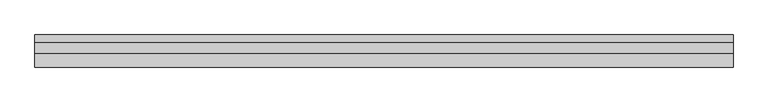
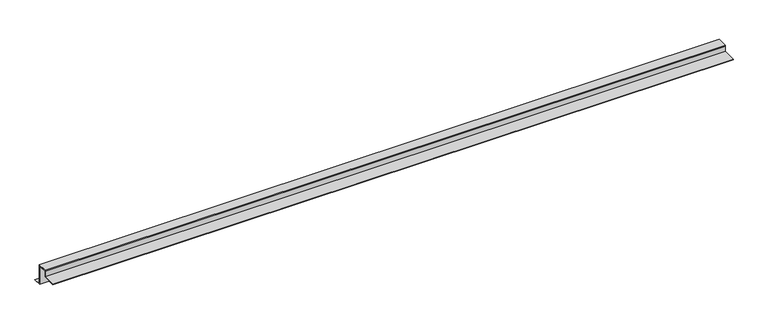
"""IFC4 building model written with IfcOpenShell, lengths in millimetres: proxy geometry, АК8_1 бок Обрамление витражного проема : АК8_1 бок Обрамление витражного проема."""

from ifc_helpers import new_model, si_unit, frame, origin, place, context, project, spatial, polyline, outline, extrude, source, transform, mapped, element, save


def generic_models_7983885f(model_context):
    return source(origin(), model_context, "Body", "SweptSolid", [
        extrude(outline(polyline([(-12.5, 25.0), (-12.5, -35.9999552), (10.5, -35.9999552), (10.5, -36.9999552), (-13.5, -36.9999552), (-13.5, 24.0), (-41.5, 24.0), (-41.5, 23.0), (-27.5, 23.0), (-27.5, 22.0), (-42.5, 22.0), (-42.5, 25.0), (-12.5, 25.0)])), frame((0.0, 0.0, 0.0), z_axis=(1.0, 0.0, 0.0), x_axis=(0.0, 1.0, 0.0)), (0.0, 0.0, 1.0), 2022.0045775),
        extrude(outline(polyline([(-42.5, 5.0), (-42.5, 22.0), (-17.5, 22.0), (-17.5, 21.0), (-41.5, 21.0), (-41.5, 4.0), (-82.5, 4.0), (-82.5, 5.0), (-42.5, 5.0)])), frame((0.0, 0.0, 0.0), z_axis=(1.0, 0.0, 0.0), x_axis=(0.0, 1.0, 0.0)), (0.0, 0.0, 1.0), 2022.0045775),
    ])


if __name__ == "__main__":
    model = new_model("IFC4")
    model_context = context("Model", 3, world=origin())
    ifc_project = project(units=[si_unit("LENGTHUNIT", "METRE", prefix="MILLI")], contexts=[model_context])
    site = spatial("IfcSite", under=ifc_project)
    building = spatial("IfcBuilding", under=site)
    placement = place(None, origin())
    generic_models_shape = generic_models_7983885f(model_context)
    element("IfcBuildingElementProxy", 1, Name="АК8_1 бок Обрамление витражного проема : АК8_1 бок Обрамление витражного проема", ObjectType="АК8_1 бок Обрамление витражного проема : АК8_1 бок Обрамление витражного проема", at=placement, inside=building, context=model_context, shape_type="MappedRepresentation", body=[
        mapped(generic_models_shape, transform((0.0, 0.0, 0.0), x_axis=(1.0, 0.0, 0.0), y_axis=(0.0, 1.0, 0.0), z_axis=(0.0, 0.0, 1.0))),
    ])
    save(model, "model.ifc")
